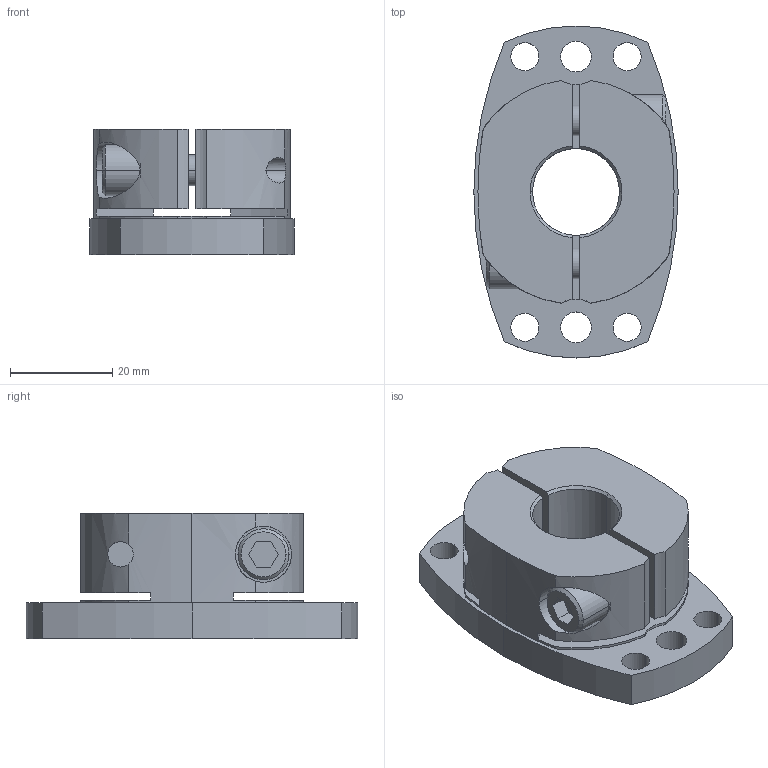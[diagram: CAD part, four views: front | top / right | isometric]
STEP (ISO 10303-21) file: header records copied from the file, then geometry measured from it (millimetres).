
FILE_DESCRIPTION((''),'2;1');
FILE_NAME('SHDB-65B-17.stp','2026-01-28T07:56:15',(''),(''),'AutoCAD STEP 2000i','AutoCAD 2000i',', , ');
FILE_SCHEMA(('CONFIG_CONTROL_DESIGN'));
Length unit declared in the file: millimetre
Products named in the file (2): SHDB-65B-16; 忣兜1
Assembly tree (1 placements, depth 2):
  SHDB-65B-16
    忣兜1
Bounding box: 40 x 65 x 24.5 mm (x, y, z)
Volume: 31630.2 mm3; surface area: 12651.6 mm2
Topology: 1 solids, 1 shells, 102 faces, 280 edges, 184 vertices
Faces by surface type: cylinder 58, plane 34, cone 10
Entity records: 3699 total; most frequent: CARTESIAN_POINT 872, DIRECTION 602, ORIENTED_EDGE 560, EDGE_CURVE 280, AXIS2_PLACEMENT_3D 238, VERTEX_POINT 184, CIRCLE 134, VECTOR 126
